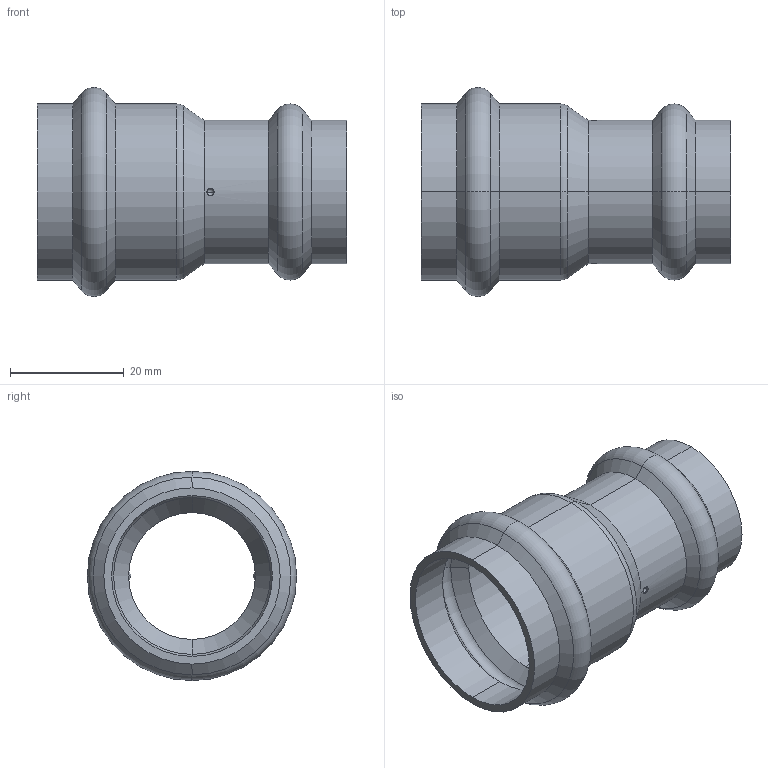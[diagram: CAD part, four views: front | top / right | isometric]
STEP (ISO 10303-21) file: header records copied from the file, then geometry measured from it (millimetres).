
FILE_DESCRIPTION (( 'STEP AP203' ), '1' );
FILE_NAME ('SP5240 28-22.STEP', '2017-04-24T08:39:14', ( '' ), ( '' ), 'SwSTEP 2.0', 'SolidWorks 2016', '' );
FILE_SCHEMA (( 'CONFIG_CONTROL_DESIGN' ));
Length unit declared in the file: millimetre
Products named in the file (1): SP5240 28-22
Bounding box: 54.5 x 36.8 x 36.8 mm (x, y, z)
Volume: 7193.6 mm3; surface area: 10764.1 mm2
Topology: 1 solids, 1 shells, 62 faces, 136 edges, 80 vertices
Faces by surface type: cone 24, cylinder 16, torus 12, sphere 8, plane 2
Entity records: 1885 total; most frequent: CARTESIAN_POINT 387, DIRECTION 342, ORIENTED_EDGE 272, AXIS2_PLACEMENT_3D 151, EDGE_CURVE 136, CIRCLE 88, VERTEX_POINT 80, EDGE_LOOP 68
